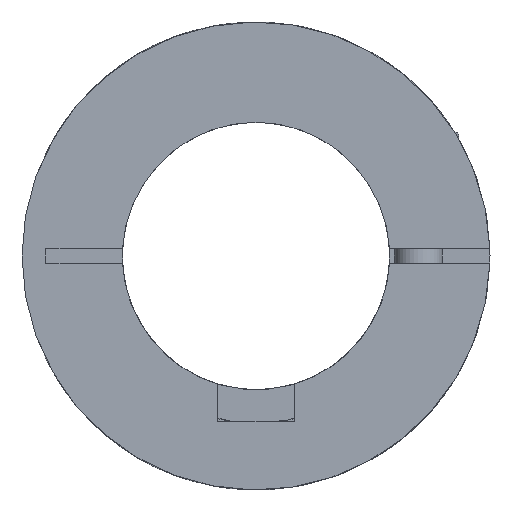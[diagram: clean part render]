
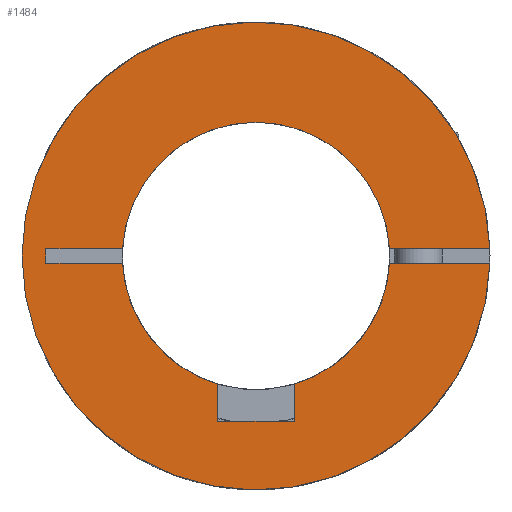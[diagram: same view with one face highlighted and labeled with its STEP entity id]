
A CAD part, left-side view. The second image highlights one B-rep face of the part: STEP entity #1484.
In plain terms, the highlighted planar face has unit normal (-1, 0, 0).
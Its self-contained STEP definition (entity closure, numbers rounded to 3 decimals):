
#39=PLANE('',#1683);
#138=LINE('',#2617,#253);
#140=LINE('',#2621,#255);
#142=LINE('',#2624,#257);
#158=LINE('',#2653,#273);
#162=LINE('',#2659,#277);
#173=LINE('',#2681,#288);
#174=LINE('',#2684,#289);
#179=LINE('',#2692,#294);
#253=VECTOR('',#2000,1.);
#255=VECTOR('',#2004,1.);
#257=VECTOR('',#2008,1.);
#273=VECTOR('',#2038,18.071);
#277=VECTOR('',#2046,20.559);
#288=VECTOR('',#2069,20.559);
#289=VECTOR('',#2072,18.071);
#294=VECTOR('',#2083,1.5);
#398=FACE_OUTER_BOUND('',#492,.T.);
#492=EDGE_LOOP('',(#1266,#1267,#1268,#1269,#1270,#1271,#1272,#1273,#1274,
#1275,#1276,#1277));
#620=CIRCLE('',#1640,24.5);
#630=CIRCLE('',#1653,14.);
#632=CIRCLE('',#1655,14.);
#633=CIRCLE('',#1657,14.);
#712=VERTEX_POINT('',#2542);
#713=VERTEX_POINT('',#2544);
#731=VERTEX_POINT('',#2583);
#732=VERTEX_POINT('',#2585);
#735=VERTEX_POINT('',#2591);
#736=VERTEX_POINT('',#2593);
#737=VERTEX_POINT('',#2597);
#738=VERTEX_POINT('',#2598);
#743=VERTEX_POINT('',#2615);
#744=VERTEX_POINT('',#2619);
#750=VERTEX_POINT('',#2651);
#756=VERTEX_POINT('',#2683);
#880=EDGE_CURVE('',#713,#712,#620,.T.);
#899=EDGE_CURVE('',#732,#731,#630,.T.);
#903=EDGE_CURVE('',#736,#735,#632,.T.);
#905=EDGE_CURVE('',#737,#738,#633,.T.);
#915=EDGE_CURVE('',#735,#743,#138,.T.);
#917=EDGE_CURVE('',#743,#744,#140,.T.);
#919=EDGE_CURVE('',#744,#732,#142,.T.);
#935=EDGE_CURVE('',#750,#731,#158,.T.);
#939=EDGE_CURVE('',#738,#713,#162,.T.);
#950=EDGE_CURVE('',#712,#736,#173,.T.);
#951=EDGE_CURVE('',#756,#737,#174,.T.);
#956=EDGE_CURVE('',#756,#750,#179,.T.);
#1266=ORIENTED_EDGE('',*,*,#899,.T.);
#1267=ORIENTED_EDGE('',*,*,#935,.F.);
#1268=ORIENTED_EDGE('',*,*,#956,.F.);
#1269=ORIENTED_EDGE('',*,*,#951,.T.);
#1270=ORIENTED_EDGE('',*,*,#905,.T.);
#1271=ORIENTED_EDGE('',*,*,#939,.T.);
#1272=ORIENTED_EDGE('',*,*,#880,.T.);
#1273=ORIENTED_EDGE('',*,*,#950,.T.);
#1274=ORIENTED_EDGE('',*,*,#903,.T.);
#1275=ORIENTED_EDGE('',*,*,#915,.T.);
#1276=ORIENTED_EDGE('',*,*,#917,.T.);
#1277=ORIENTED_EDGE('',*,*,#919,.T.);
#1484=ADVANCED_FACE('',(#398),#39,.T.);
#1640=AXIS2_PLACEMENT_3D('',#2545,#1936,#1937);
#1653=AXIS2_PLACEMENT_3D('',#2586,#1971,#1972);
#1655=AXIS2_PLACEMENT_3D('',#2594,#1977,#1978);
#1657=AXIS2_PLACEMENT_3D('',#2599,#1982,#1983);
#1683=AXIS2_PLACEMENT_3D('',#2693,#2084,#2085);
#1936=DIRECTION('center_axis',(-1.,0.,0.));
#1937=DIRECTION('ref_axis',(0.,1.,0.));
#1971=DIRECTION('center_axis',(1.,0.,0.));
#1972=DIRECTION('ref_axis',(0.,0.,-1.));
#1977=DIRECTION('center_axis',(1.,0.,0.));
#1978=DIRECTION('ref_axis',(0.,0.,-1.));
#1982=DIRECTION('center_axis',(1.,0.,0.));
#1983=DIRECTION('ref_axis',(0.,0.,-1.));
#2000=DIRECTION('',(0.,0.,-1.));
#2004=DIRECTION('',(0.,1.,0.));
#2008=DIRECTION('',(0.,0.,1.));
#2038=DIRECTION('',(0.,-1.,0.));
#2046=DIRECTION('',(0.,-1.,0.));
#2069=DIRECTION('',(0.,1.,0.));
#2072=DIRECTION('',(0.,-1.,0.));
#2083=DIRECTION('',(0.,0.,-1.));
#2084=DIRECTION('center_axis',(-1.,0.,0.));
#2085=DIRECTION('ref_axis',(0.,-1.,0.));
#2542=CARTESIAN_POINT('',(0.,-24.489,-0.75));
#2544=CARTESIAN_POINT('',(0.,-24.489,0.75));
#2545=CARTESIAN_POINT('Origin',(0.,0.,0.));
#2583=CARTESIAN_POINT('',(0.,13.98,-0.75));
#2585=CARTESIAN_POINT('',(0.,4.,-13.416));
#2586=CARTESIAN_POINT('Origin',(0.,0.,0.));
#2591=CARTESIAN_POINT('',(0.,-4.,-13.416));
#2593=CARTESIAN_POINT('',(0.,-13.98,-0.75));
#2594=CARTESIAN_POINT('Origin',(0.,0.,0.));
#2597=CARTESIAN_POINT('',(0.,13.98,0.75));
#2598=CARTESIAN_POINT('',(0.,-13.98,0.75));
#2599=CARTESIAN_POINT('Origin',(0.,0.,0.));
#2615=CARTESIAN_POINT('',(0.,-4.,-17.3));
#2617=CARTESIAN_POINT('',(0.,-4.,-6.325));
#2619=CARTESIAN_POINT('',(0.,4.,-17.3));
#2621=CARTESIAN_POINT('',(0.,0.,-17.3));
#2624=CARTESIAN_POINT('',(0.,4.,-6.325));
#2651=CARTESIAN_POINT('',(0.,22.,-0.75));
#2653=CARTESIAN_POINT('',(0.,22.,-0.75));
#2659=CARTESIAN_POINT('',(0.,-3.929,0.75));
#2681=CARTESIAN_POINT('',(0.,-24.489,-0.75));
#2683=CARTESIAN_POINT('',(0.,22.,0.75));
#2684=CARTESIAN_POINT('',(0.,22.,0.75));
#2692=CARTESIAN_POINT('',(0.,22.,0.75));
#2693=CARTESIAN_POINT('Origin',(0.,0.,-4.));
